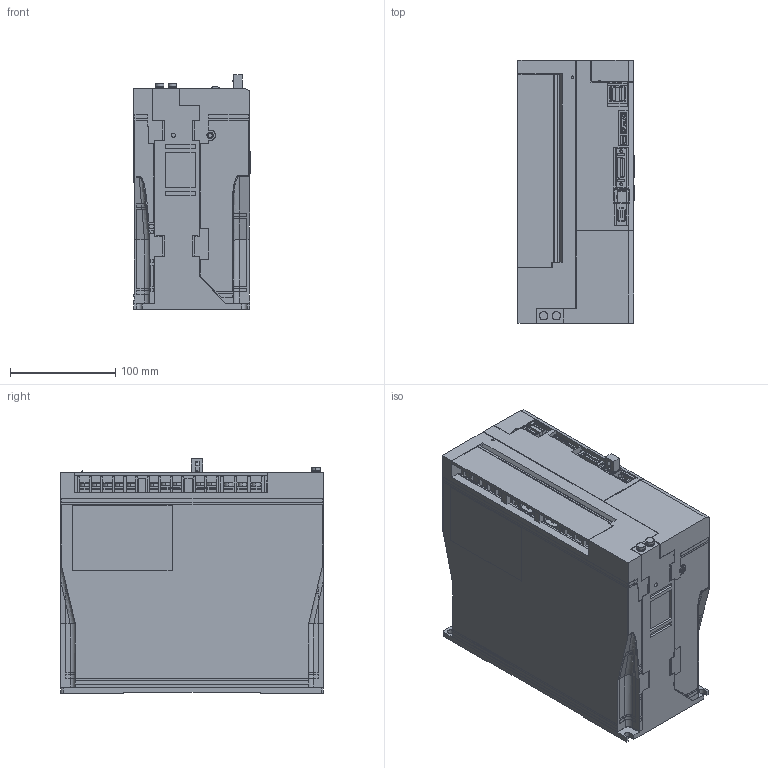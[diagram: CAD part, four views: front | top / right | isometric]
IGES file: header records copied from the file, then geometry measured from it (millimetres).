
Start section: SolidWorks IGES file using analytic representation for surfaces
Global section: file name: C:\YASKAWA\sgdv_330a1_a.IGS; native system: SolidWorks 2006 by SolidWorks Corporation; preprocessor: SolidWorks 2006 by SolidWorks Corporation; author: yamanouchi; date: 080707.135043; units: millimetre
Bounding box: 110.5 x 250 x 223 mm (x, y, z)
Surface area: 273291.7 mm2 (no closed solid volume)
Topology: 0 solids, 0 shells, 2246 faces, 18298 edges, 18298 vertices
Faces by surface type: bspline 1976, revolution 270
